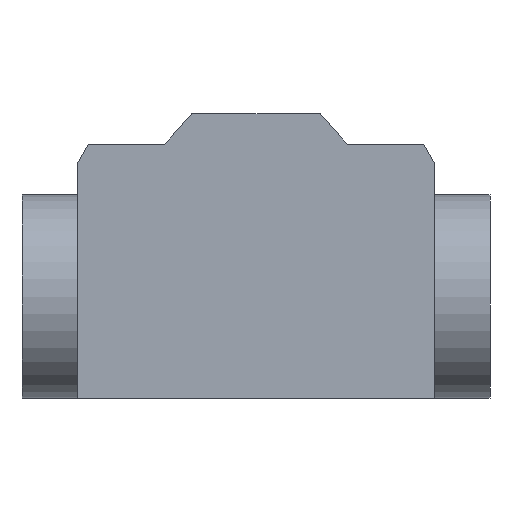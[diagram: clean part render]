
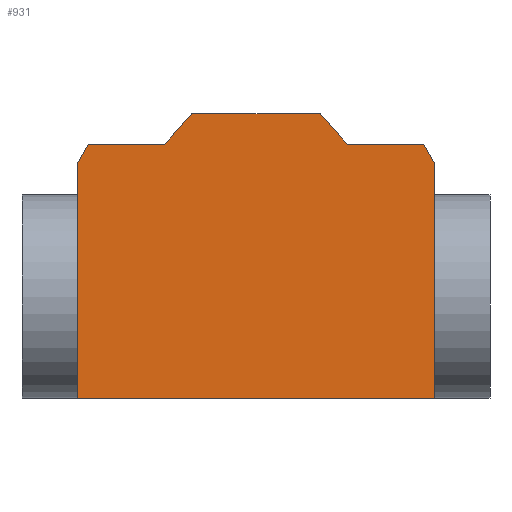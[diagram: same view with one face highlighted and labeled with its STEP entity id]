
A CAD part, left-side view. The second image highlights one B-rep face of the part: STEP entity #931.
In plain terms, the highlighted planar face has unit normal (-1, 0, 0).
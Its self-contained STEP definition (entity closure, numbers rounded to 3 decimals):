
#581=FACE_OUTER_BOUND('',#4255,.T.);
#931=ADVANCED_FACE('',(#581),#1580,.F.);
#1580=PLANE('',#10400);
#1990=LINE('',#14554,#2740);
#2009=LINE('',#14640,#2759);
#2020=LINE('',#14694,#2770);
#2021=LINE('',#14702,#2771);
#2023=LINE('',#14710,#2773);
#2025=LINE('',#14714,#2775);
#2027=LINE('',#14718,#2777);
#2029=LINE('',#14722,#2779);
#2031=LINE('',#14730,#2781);
#2033=LINE('',#14734,#2783);
#2740=VECTOR('',#11534,1.);
#2759=VECTOR('',#11603,1.);
#2770=VECTOR('',#11648,1.);
#2771=VECTOR('',#11657,1.);
#2773=VECTOR('',#11665,1.);
#2775=VECTOR('',#11669,1.);
#2777=VECTOR('',#11673,1.);
#2779=VECTOR('',#11677,1.);
#2781=VECTOR('',#11685,1.);
#2783=VECTOR('',#11689,1.);
#4255=EDGE_LOOP('',(#5412,#5413,#5414,#5415,#5416,#5417,#5418,#5419,#5420,
#5421));
#5412=ORIENTED_EDGE('',*,*,#8730,.F.);
#5413=ORIENTED_EDGE('',*,*,#8777,.F.);
#5414=ORIENTED_EDGE('',*,*,#8775,.F.);
#5415=ORIENTED_EDGE('',*,*,#8771,.F.);
#5416=ORIENTED_EDGE('',*,*,#8769,.F.);
#5417=ORIENTED_EDGE('',*,*,#8767,.F.);
#5418=ORIENTED_EDGE('',*,*,#8765,.F.);
#5419=ORIENTED_EDGE('',*,*,#8761,.F.);
#5420=ORIENTED_EDGE('',*,*,#8687,.F.);
#5421=ORIENTED_EDGE('',*,*,#8757,.F.);
#7739=VERTEX_POINT('',#14555);
#7740=VERTEX_POINT('',#14556);
#7781=VERTEX_POINT('',#14641);
#7782=VERTEX_POINT('',#14642);
#7810=VERTEX_POINT('',#14703);
#7813=VERTEX_POINT('',#14711);
#7814=VERTEX_POINT('',#14715);
#7815=VERTEX_POINT('',#14719);
#7816=VERTEX_POINT('',#14723);
#7819=VERTEX_POINT('',#14731);
#8687=EDGE_CURVE('',#7739,#7740,#1990,.T.);
#8730=EDGE_CURVE('',#7781,#7782,#2009,.T.);
#8757=EDGE_CURVE('',#7782,#7739,#2020,.T.);
#8761=EDGE_CURVE('',#7740,#7810,#2021,.T.);
#8765=EDGE_CURVE('',#7810,#7813,#2023,.T.);
#8767=EDGE_CURVE('',#7813,#7814,#2025,.T.);
#8769=EDGE_CURVE('',#7814,#7815,#2027,.T.);
#8771=EDGE_CURVE('',#7815,#7816,#2029,.T.);
#8775=EDGE_CURVE('',#7816,#7819,#2031,.T.);
#8777=EDGE_CURVE('',#7819,#7781,#2033,.T.);
#10400=AXIS2_PLACEMENT_3D('',#14736,#11692,#11693);
#11534=DIRECTION('',(0.,0.,1.));
#11603=DIRECTION('',(0.,0.,-1.));
#11648=DIRECTION('',(0.,1.,0.));
#11657=DIRECTION('',(0.,-0.483,0.876));
#11665=DIRECTION('',(0.,-1.,0.));
#11669=DIRECTION('',(0.,-0.664,0.748));
#11673=DIRECTION('',(0.,-1.,0.));
#11677=DIRECTION('',(0.,-0.664,-0.748));
#11685=DIRECTION('',(0.,-1.,0.));
#11689=DIRECTION('',(0.,-0.483,-0.876));
#11692=DIRECTION('',(1.,0.,0.));
#11693=DIRECTION('',(0.,0.,-1.));
#14554=CARTESIAN_POINT('',(0.,70.,-56.));
#14555=CARTESIAN_POINT('',(0.,70.,-56.));
#14556=CARTESIAN_POINT('',(0.,70.,36.64));
#14640=CARTESIAN_POINT('',(0.,-70.,36.64));
#14641=CARTESIAN_POINT('',(0.,-70.,36.64));
#14642=CARTESIAN_POINT('',(0.,-70.,-56.));
#14694=CARTESIAN_POINT('',(0.,-70.,-56.));
#14702=CARTESIAN_POINT('',(0.,70.,36.64));
#14703=CARTESIAN_POINT('',(0.,65.945,44.));
#14710=CARTESIAN_POINT('',(0.,65.945,44.));
#14711=CARTESIAN_POINT('',(0.,35.825,44.));
#14714=CARTESIAN_POINT('',(0.,35.825,44.));
#14715=CARTESIAN_POINT('',(0.,25.166,56.));
#14718=CARTESIAN_POINT('',(0.,25.166,56.));
#14719=CARTESIAN_POINT('',(0.,-25.166,56.));
#14722=CARTESIAN_POINT('',(0.,-25.166,56.));
#14723=CARTESIAN_POINT('',(0.,-35.825,44.));
#14730=CARTESIAN_POINT('',(0.,-35.825,44.));
#14731=CARTESIAN_POINT('',(0.,-65.945,44.));
#14734=CARTESIAN_POINT('',(0.,-65.945,44.));
#14736=CARTESIAN_POINT('',(0.,0.,0.));
